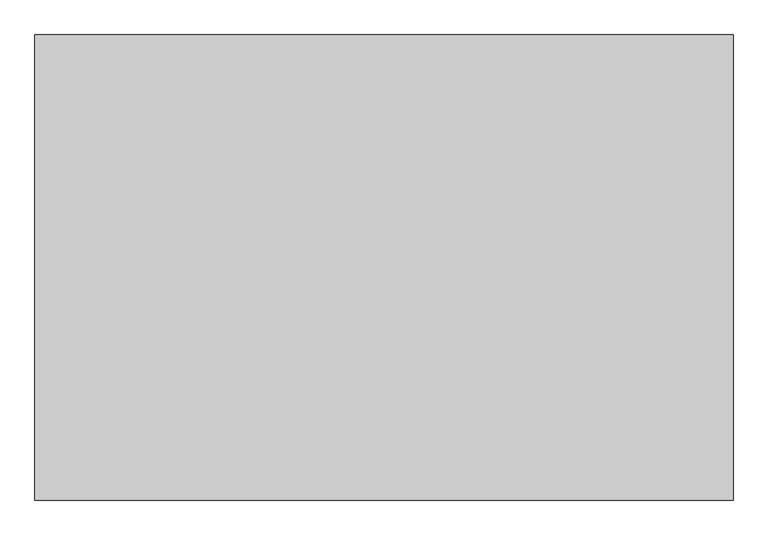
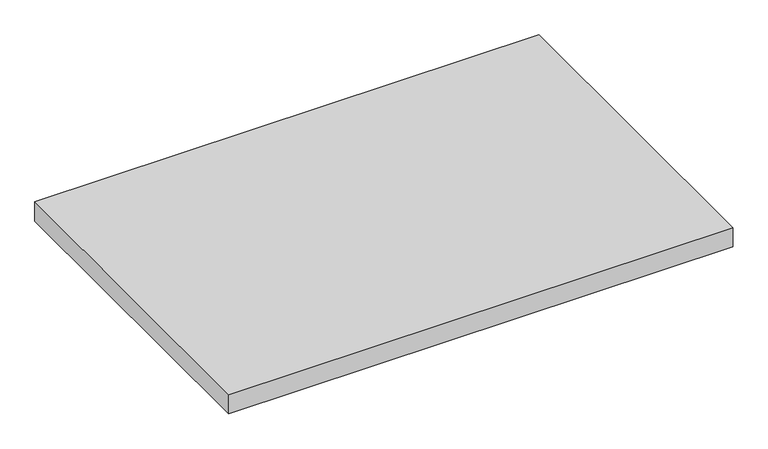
"""IFC4 building model written with IfcOpenShell, lengths in millimetres: proxy geometry, 機械基礎 : 機械基礎."""

from ifc_helpers import new_model, si_unit, origin, origin_with_axes, place, context, project, spatial, polyline, outline, extrude, source, transform, mapped, element, save


def specialty_equipment_ba1d7a8f(model_context):
    return source(origin(), model_context, "Body", "SweptSolid", [
        extrude(outline(polyline([(1850.0, -1232.5), (-1850.0, -1232.5), (-1850.0, 1232.5), (1850.0, 1232.5), (1850.0, -1232.5)])), origin_with_axes(), (0.0, 0.0, 1.0), 150.0),
    ])


if __name__ == "__main__":
    model = new_model("IFC4")
    model_context = context("Model", 3, world=origin())
    ifc_project = project(units=[si_unit("LENGTHUNIT", "METRE", prefix="MILLI")], contexts=[model_context])
    site = spatial("IfcSite", under=ifc_project)
    building = spatial("IfcBuilding", under=site)
    placement = place(None, origin())
    specialty_equipment_shape = specialty_equipment_ba1d7a8f(model_context)
    element("IfcBuildingElementProxy", 1, Name="機械基礎 : 機械基礎", ObjectType="機械基礎 : 機械基礎", at=placement, inside=building, context=model_context, shape_type="MappedRepresentation", body=[
        mapped(specialty_equipment_shape, transform((0.0, 0.0, 0.0), x_axis=(1.0, 0.0, 0.0), y_axis=(0.0, 1.0, 0.0), z_axis=(0.0, 0.0, 1.0))),
    ])
    save(model, "model.ifc")
